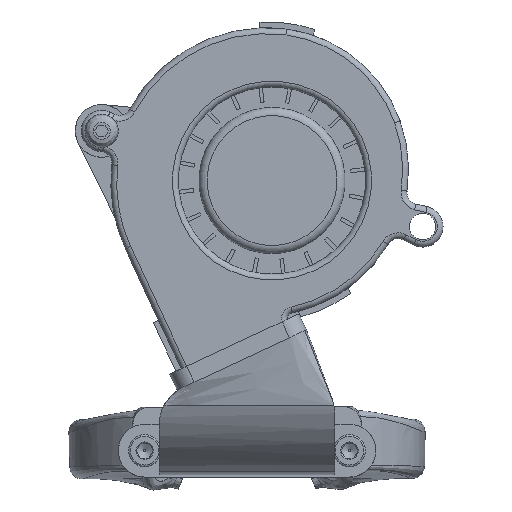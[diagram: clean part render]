
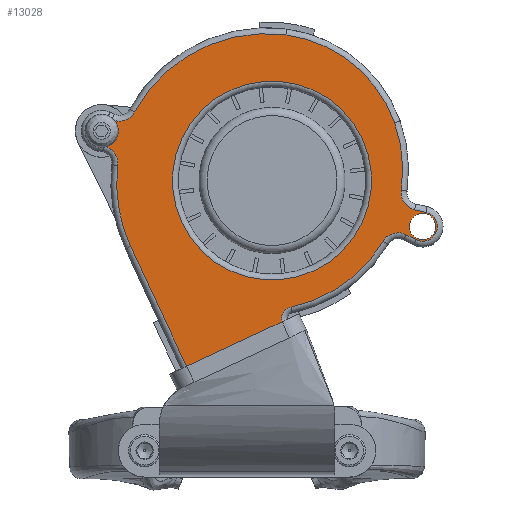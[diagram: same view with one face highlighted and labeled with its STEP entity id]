
A CAD part, front view. The second image highlights one B-rep face of the part: STEP entity #13028.
In plain terms, the highlighted planar face has unit normal (0, -1, 0) as drawn and (0, 1, 0) by its records, which use the part's own axes.
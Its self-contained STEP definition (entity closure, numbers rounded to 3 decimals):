
#356=FACE_BOUND('',#2241,.T.);
#357=FACE_BOUND('',#2242,.T.);
#358=FACE_BOUND('',#2243,.T.);
#1471=FACE_OUTER_BOUND('',#2240,.T.);
#2240=EDGE_LOOP('',(#9303,#9304,#9305,#9306,#9307,#9308,#9309,#9310,#9311,
#9312,#9313,#9314,#9315,#9316,#9317,#9318,#9319,#9320,#9321));
#2241=EDGE_LOOP('',(#9322));
#2242=EDGE_LOOP('',(#9323));
#2243=EDGE_LOOP('',(#9324));
#2971=LINE('',#21316,#3809);
#2989=LINE('',#21387,#3827);
#3001=LINE('',#21436,#3839);
#3002=LINE('',#21439,#3840);
#3003=LINE('',#21444,#3841);
#3004=LINE('',#21448,#3842);
#3005=LINE('',#21453,#3843);
#3809=VECTOR('',#15453,1.);
#3827=VECTOR('',#15527,1.);
#3839=VECTOR('',#15583,1.);
#3840=VECTOR('',#15586,1.);
#3841=VECTOR('',#15591,1.);
#3842=VECTOR('',#15594,1.);
#3843=VECTOR('',#15599,1.);
#4637=CIRCLE('',#13874,17.);
#4638=CIRCLE('',#13876,2.25);
#4667=CIRCLE('',#13912,3.);
#4675=CIRCLE('',#13923,22.905);
#4695=CIRCLE('',#13953,2.25);
#4728=CIRCLE('',#14000,25.567);
#4729=CIRCLE('',#14003,2.);
#4730=CIRCLE('',#14004,23.935);
#4731=CIRCLE('',#14005,3.);
#4732=CIRCLE('',#14006,2.5);
#4733=CIRCLE('',#14007,23.935);
#4734=CIRCLE('',#14008,3.);
#4735=CIRCLE('',#14009,2.5);
#4736=CIRCLE('',#14010,3.);
#4737=CIRCLE('',#14011,25.567);
#5254=VERTEX_POINT('',#21125);
#5255=VERTEX_POINT('',#21129);
#5292=VERTEX_POINT('',#21211);
#5293=VERTEX_POINT('',#21213);
#5300=VERTEX_POINT('',#21233);
#5302=VERTEX_POINT('',#21237);
#5326=VERTEX_POINT('',#21308);
#5328=VERTEX_POINT('',#21313);
#5329=VERTEX_POINT('',#21315);
#5354=VERTEX_POINT('',#21386);
#5364=VERTEX_POINT('',#21421);
#5366=VERTEX_POINT('',#21429);
#5367=VERTEX_POINT('',#21431);
#5368=VERTEX_POINT('',#21433);
#5369=VERTEX_POINT('',#21435);
#5370=VERTEX_POINT('',#21437);
#5371=VERTEX_POINT('',#21441);
#5372=VERTEX_POINT('',#21443);
#5373=VERTEX_POINT('',#21445);
#5374=VERTEX_POINT('',#21447);
#5375=VERTEX_POINT('',#21449);
#5376=VERTEX_POINT('',#21451);
#6716=EDGE_CURVE('',#5254,#5254,#4637,.T.);
#6717=EDGE_CURVE('',#5255,#5255,#4638,.T.);
#6756=EDGE_CURVE('',#5293,#5292,#4667,.T.);
#6769=EDGE_CURVE('',#5300,#5302,#4675,.T.);
#6805=EDGE_CURVE('',#5326,#5326,#4695,.T.);
#6808=EDGE_CURVE('',#5329,#5328,#2971,.T.);
#6845=EDGE_CURVE('',#5329,#5354,#2989,.T.);
#6867=EDGE_CURVE('',#5302,#5364,#4728,.T.);
#6870=EDGE_CURVE('',#5366,#5328,#4729,.T.);
#6871=EDGE_CURVE('',#5366,#5367,#4730,.T.);
#6872=EDGE_CURVE('',#5367,#5368,#4731,.T.);
#6873=EDGE_CURVE('',#5368,#5369,#3001,.T.);
#6874=EDGE_CURVE('',#5369,#5370,#4732,.T.);
#6875=EDGE_CURVE('',#5370,#5293,#3002,.T.);
#6876=EDGE_CURVE('',#5292,#5300,#4733,.T.);
#6877=EDGE_CURVE('',#5364,#5371,#4734,.T.);
#6878=EDGE_CURVE('',#5371,#5372,#3003,.T.);
#6879=EDGE_CURVE('',#5372,#5373,#4735,.T.);
#6880=EDGE_CURVE('',#5373,#5374,#3004,.T.);
#6881=EDGE_CURVE('',#5374,#5375,#4736,.T.);
#6882=EDGE_CURVE('',#5375,#5376,#4737,.T.);
#6883=EDGE_CURVE('',#5376,#5354,#3005,.T.);
#9303=ORIENTED_EDGE('',*,*,#6845,.F.);
#9304=ORIENTED_EDGE('',*,*,#6808,.T.);
#9305=ORIENTED_EDGE('',*,*,#6870,.F.);
#9306=ORIENTED_EDGE('',*,*,#6871,.T.);
#9307=ORIENTED_EDGE('',*,*,#6872,.T.);
#9308=ORIENTED_EDGE('',*,*,#6873,.T.);
#9309=ORIENTED_EDGE('',*,*,#6874,.T.);
#9310=ORIENTED_EDGE('',*,*,#6875,.T.);
#9311=ORIENTED_EDGE('',*,*,#6756,.T.);
#9312=ORIENTED_EDGE('',*,*,#6876,.T.);
#9313=ORIENTED_EDGE('',*,*,#6769,.T.);
#9314=ORIENTED_EDGE('',*,*,#6867,.T.);
#9315=ORIENTED_EDGE('',*,*,#6877,.T.);
#9316=ORIENTED_EDGE('',*,*,#6878,.T.);
#9317=ORIENTED_EDGE('',*,*,#6879,.T.);
#9318=ORIENTED_EDGE('',*,*,#6880,.T.);
#9319=ORIENTED_EDGE('',*,*,#6881,.T.);
#9320=ORIENTED_EDGE('',*,*,#6882,.T.);
#9321=ORIENTED_EDGE('',*,*,#6883,.T.);
#9322=ORIENTED_EDGE('',*,*,#6716,.T.);
#9323=ORIENTED_EDGE('',*,*,#6717,.F.);
#9324=ORIENTED_EDGE('',*,*,#6805,.F.);
#12627=PLANE('',#14002);
#13028=ADVANCED_FACE('',(#1471,#356,#357,#358),#12627,.T.);
#13874=AXIS2_PLACEMENT_3D('',#21127,#15257,#15258);
#13876=AXIS2_PLACEMENT_3D('',#21130,#15261,#15262);
#13912=AXIS2_PLACEMENT_3D('',#21214,#15343,#15344);
#13923=AXIS2_PLACEMENT_3D('',#21239,#15370,#15371);
#13953=AXIS2_PLACEMENT_3D('',#21309,#15446,#15447);
#14000=AXIS2_PLACEMENT_3D('',#21423,#15569,#15570);
#14002=AXIS2_PLACEMENT_3D('',#21428,#15575,#15576);
#14003=AXIS2_PLACEMENT_3D('',#21430,#15577,#15578);
#14004=AXIS2_PLACEMENT_3D('',#21432,#15579,#15580);
#14005=AXIS2_PLACEMENT_3D('',#21434,#15581,#15582);
#14006=AXIS2_PLACEMENT_3D('',#21438,#15584,#15585);
#14007=AXIS2_PLACEMENT_3D('',#21440,#15587,#15588);
#14008=AXIS2_PLACEMENT_3D('',#21442,#15589,#15590);
#14009=AXIS2_PLACEMENT_3D('',#21446,#15592,#15593);
#14010=AXIS2_PLACEMENT_3D('',#21450,#15595,#15596);
#14011=AXIS2_PLACEMENT_3D('',#21452,#15597,#15598);
#15257=DIRECTION('center_axis',(0.,-1.,0.));
#15258=DIRECTION('ref_axis',(0.423,0.,0.906));
#15261=DIRECTION('center_axis',(0.,1.,0.));
#15262=DIRECTION('ref_axis',(0.423,0.,0.906));
#15343=DIRECTION('center_axis',(0.,-1.,0.));
#15344=DIRECTION('ref_axis',(0.423,0.,0.906));
#15370=DIRECTION('center_axis',(0.,1.,0.));
#15371=DIRECTION('ref_axis',(0.423,0.,0.906));
#15446=DIRECTION('center_axis',(0.,1.,0.));
#15447=DIRECTION('ref_axis',(0.423,0.,0.906));
#15453=DIRECTION('',(0.423,0.,0.906));
#15527=DIRECTION('',(0.906,0.,-0.423));
#15569=DIRECTION('center_axis',(0.,1.,0.));
#15570=DIRECTION('ref_axis',(0.423,0.,0.906));
#15575=DIRECTION('center_axis',(0.,1.,0.));
#15576=DIRECTION('ref_axis',(0.423,0.,0.906));
#15577=DIRECTION('center_axis',(0.,1.,0.));
#15578=DIRECTION('ref_axis',(0.423,0.,0.906));
#15579=DIRECTION('center_axis',(0.,1.,0.));
#15580=DIRECTION('ref_axis',(0.423,0.,0.906));
#15581=DIRECTION('center_axis',(0.,-1.,0.));
#15582=DIRECTION('ref_axis',(0.423,0.,0.906));
#15583=DIRECTION('',(-0.895,0.,-0.446));
#15584=DIRECTION('center_axis',(0.,1.,0.));
#15585=DIRECTION('ref_axis',(0.423,0.,0.906));
#15586=DIRECTION('',(0.976,0.,0.218));
#15587=DIRECTION('center_axis',(0.,1.,0.));
#15588=DIRECTION('ref_axis',(0.423,0.,0.906));
#15589=DIRECTION('center_axis',(0.,-1.,0.));
#15590=DIRECTION('ref_axis',(0.423,0.,0.906));
#15591=DIRECTION('',(0.91,0.,0.414));
#15592=DIRECTION('center_axis',(0.,1.,0.));
#15593=DIRECTION('ref_axis',(0.423,0.,0.906));
#15594=DIRECTION('',(-0.982,0.,-0.188));
#15595=DIRECTION('center_axis',(0.,-1.,0.));
#15596=DIRECTION('ref_axis',(0.423,0.,0.906));
#15597=DIRECTION('center_axis',(0.,1.,0.));
#15598=DIRECTION('ref_axis',(0.423,0.,0.906));
#15599=DIRECTION('',(-0.423,0.,-0.906));
#21125=CARTESIAN_POINT('',(-11.424,47.8,10.538));
#21127=CARTESIAN_POINT('Origin',(-4.24,47.8,25.946));
#21129=CARTESIAN_POINT('',(25.827,47.8,36.475));
#21130=CARTESIAN_POINT('Origin',(24.877,47.8,34.436));
#21211=CARTESIAN_POINT('',(-26.321,47.8,24.308));
#21213=CARTESIAN_POINT('',(-28.635,47.8,20.945));
#21214=CARTESIAN_POINT('Origin',(-29.289,47.8,23.873));
#21233=CARTESIAN_POINT('',(-25.185,47.8,35.816));
#21237=CARTESIAN_POINT('',(-6.628,47.8,50.832));
#21239=CARTESIAN_POINT('Origin',(-3.609,47.8,28.126));
#21308=CARTESIAN_POINT('',(-29.022,47.8,20.124));
#21309=CARTESIAN_POINT('Origin',(-29.973,47.8,18.084));
#21313=CARTESIAN_POINT('',(-6.077,47.8,1.537));
#21315=CARTESIAN_POINT('',(-7.219,47.8,-0.912));
#21316=CARTESIAN_POINT('',(3.804,47.8,22.728));
#21386=CARTESIAN_POINT('',(9.094,47.8,-8.519));
#21387=CARTESIAN_POINT('',(-0.457,47.8,-4.065));
#21421=CARTESIAN_POINT('',(19.218,47.8,37.674));
#21423=CARTESIAN_POINT('Origin',(-3.258,47.8,25.488));
#21428=CARTESIAN_POINT('Origin',(-2.497,47.8,25.666));
#21429=CARTESIAN_POINT('',(-7.485,47.8,4.341));
#21430=CARTESIAN_POINT('Origin',(-7.89,47.8,2.383));
#21431=CARTESIAN_POINT('',(-23.215,47.8,15.553));
#21432=CARTESIAN_POINT('Origin',(-2.639,47.8,27.781));
#21433=CARTESIAN_POINT('',(-27.131,47.8,16.706));
#21434=CARTESIAN_POINT('Origin',(-25.794,47.8,14.021));
#21435=CARTESIAN_POINT('',(-28.859,47.8,15.846));
#21436=CARTESIAN_POINT('',(-3.814,47.8,28.313));
#21437=CARTESIAN_POINT('',(-30.518,47.8,20.524));
#21438=CARTESIAN_POINT('Origin',(-29.973,47.8,18.084));
#21439=CARTESIAN_POINT('',(-28.635,47.8,20.945));
#21440=CARTESIAN_POINT('Origin',(-2.639,47.8,27.781));
#21441=CARTESIAN_POINT('',(23.097,47.8,36.373));
#21442=CARTESIAN_POINT('Origin',(21.855,47.8,39.104));
#21443=CARTESIAN_POINT('',(23.842,47.8,36.712));
#21444=CARTESIAN_POINT('',(-2.146,47.8,24.895));
#21445=CARTESIAN_POINT('',(25.346,47.8,31.981));
#21446=CARTESIAN_POINT('Origin',(24.877,47.8,34.436));
#21447=CARTESIAN_POINT('',(24.543,47.8,31.827));
#21448=CARTESIAN_POINT('',(24.543,47.8,31.827));
#21449=CARTESIAN_POINT('',(22.128,47.8,28.524));
#21450=CARTESIAN_POINT('Origin',(25.107,47.8,28.88));
#21451=CARTESIAN_POINT('',(19.913,47.8,14.683));
#21452=CARTESIAN_POINT('Origin',(-3.258,47.8,25.488));
#21453=CARTESIAN_POINT('',(20.118,47.8,15.121));
